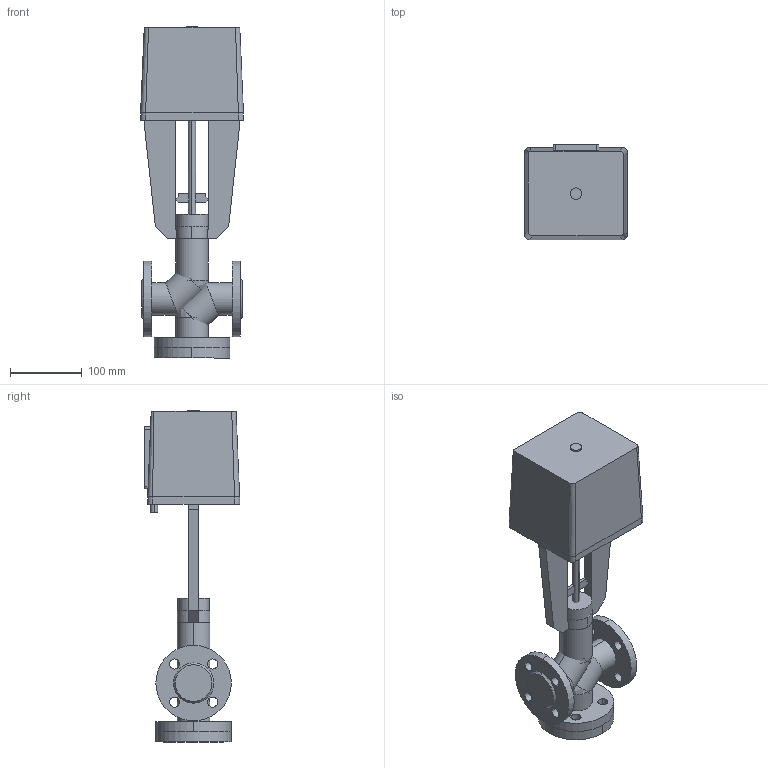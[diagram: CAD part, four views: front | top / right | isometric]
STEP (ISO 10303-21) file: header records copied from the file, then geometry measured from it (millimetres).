
FILE_DESCRIPTION(/* description */ (''),/* implementation_level */ '2;1');
FILE_NAME(/* name */ 'ТРК DN20 PN 1.6 МПа LEA 1200',/* time_stamp */ '2026-07-14T23:06:13+03:00',/* author */ (''),/* organization */ (''),/* preprocessor_version */ 'ST-DEVELOPER v20',/* originating_system */ '',/* authorisation */ '');
FILE_SCHEMA (('AP242_MANAGED_MODEL_BASED_3D_ENGINEERING_MIM_LF { 1 0 10303 442 1 1 4 }'));
Length unit declared in the file: millimetre
Products named in the file (14): TopLevelAssembly; Выдавливание; Модификатор; Модификатор_1; Выдавливание_
1; Выдавливание_
2; Вращение; Выдавливание_
3; Выдавливание_
4; 1600; Переход; Объемная геометрия 
присоединена; Полый Выдавливание; Объемная геометрия 
присоединена_1
Assembly tree (13 placements, depth 2):
  TopLevelAssembly
    Выдавливание
    Модификатор
    Модификатор_1
    Выдавливание_
1
    Выдавливание_
2
    Вращение
    Выдавливание_
3
    Выдавливание_
4
    1600
    Переход
    Объемная геометрия 
присоединена
    Полый Выдавливание
    Объемная геометрия 
присоединена_1
Bounding box: 143 x 132.49 x 462 mm (x, y, z)
Volume: 3326911.9 mm3; surface area: 343344 mm2
Topology: 18 solids, 18 shells, 159 faces, 366 edges, 240 vertices
Faces by surface type: plane 77, cylinder 70, bspline 8, cone 4
Entity records: 5164 total; most frequent: CARTESIAN_POINT 972, DIRECTION 882, ORIENTED_EDGE 716, EDGE_CURVE 358, AXIS2_PLACEMENT_3D 346, VERTEX_POINT 240, EDGE_LOOP 194, LINE 190
